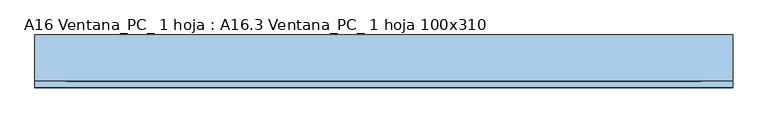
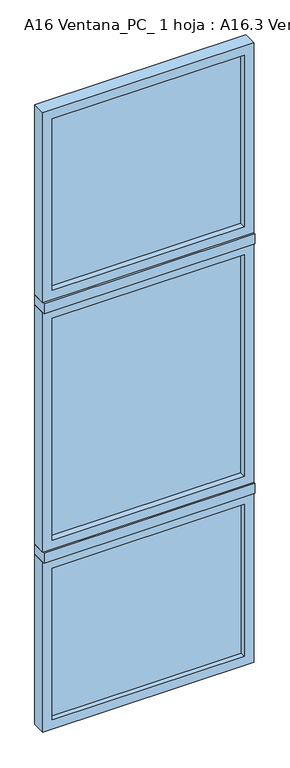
"""IFC4 building model written with IfcOpenShell, lengths in millimetres: window geometry, A16 Ventana_PC_ 1 hoja : A16.3 Ventana_PC_ 1 hoja 100x310."""

from ifc_helpers import new_model, si_unit, frame, origin, place, context, project, spatial, polyline, outline, extrude, source, transform, mapped, element, save


def a16_ventana_pc_1_hoja_a16_3_ventana_pc_1_hoja_100x310_32f91e1d(model_context):
    return source(origin(), model_context, "Body", "SweptSolid", [
        extrude(outline(polyline([(455.0, -37.5), (455.0, -53.5), (-455.0, -53.5), (-455.0, -37.5), (455.0, -37.5)])), frame((0.0, 0.0, 45.0), z_axis=(0.0, 0.0, 1.0), x_axis=(1.0, 0.0, 0.0)), (0.0, 0.0, 1.0), 760.0),
        extrude(outline(polyline([(455.0, -42.5), (455.0, -48.5), (-455.0, -48.5), (-455.0, -42.5), (455.0, -42.5)])), frame((0.0, 0.0, 2195.0), z_axis=(0.0, 0.0, 1.0), x_axis=(1.0, 0.0, 0.0)), (0.0, 0.0, 1.0), 860.0),
        extrude(outline(polyline([(455.0, -42.5), (455.0, -48.5), (-455.0, -48.5), (-455.0, -42.5), (455.0, -42.5)])), frame((0.0, 0.0, 945.0), z_axis=(0.0, 0.0, 1.0), x_axis=(1.0, 0.0, 0.0)), (0.0, 0.0, 1.0), 1110.0),
        extrude(outline(polyline([(850.0, -500.0), (0.0, -500.0), (0.0, 500.0), (850.0, 500.0), (850.0, -500.0)]), holes=[polyline([(805.0, -455.0), (805.0, 455.0), (45.0, 455.0), (45.0, -455.0), (805.0, -455.0)])]), frame((0.0, -78.5, 0.0), z_axis=(0.0, 1.0, 0.0), x_axis=(0.0, 0.0, 1.0)), (0.0, 0.0, 1.0), 66.0),
        extrude(outline(polyline([(3100.0, -500.0), (2150.0, -500.0), (2150.0, 500.0), (3100.0, 500.0), (3100.0, -500.0)]), holes=[polyline([(3055.0, -455.0), (3055.0, 455.0), (2195.0, 455.0), (2195.0, -455.0), (3055.0, -455.0)])]), frame((0.0, -78.5, 0.0), z_axis=(0.0, 1.0, 0.0), x_axis=(0.0, 0.0, 1.0)), (0.0, 0.0, 1.0), 66.0),
        extrude(outline(polyline([(2100.0, -500.0), (900.0, -500.0), (900.0, 500.0), (2100.0, 500.0), (2100.0, -500.0)]), holes=[polyline([(2055.0, -455.0), (2055.0, 455.0), (945.0, 455.0), (945.0, -455.0), (2055.0, -455.0)])]), frame((0.0, -78.5, 0.0), z_axis=(0.0, 1.0, 0.0), x_axis=(0.0, 0.0, 1.0)), (0.0, 0.0, 1.0), 66.0),
        extrude(outline(polyline([(500.0, -12.5), (500.0, -87.5), (-500.0, -87.5), (-500.0, -12.5), (500.0, -12.5)])), frame((0.0, 0.0, 2100.0), z_axis=(0.0, 0.0, 1.0), x_axis=(1.0, 0.0, 0.0)), (0.0, 0.0, 1.0), 50.0),
        extrude(outline(polyline([(500.0, -12.5), (500.0, -87.5), (-500.0, -87.5), (-500.0, -12.5), (500.0, -12.5)])), frame((0.0, 0.0, 850.0), z_axis=(0.0, 0.0, 1.0), x_axis=(1.0, 0.0, 0.0)), (0.0, 0.0, 1.0), 50.0),
    ])


if __name__ == "__main__":
    model = new_model("IFC4")
    model_context = context("Model", 3, world=origin())
    ifc_project = project(units=[si_unit("LENGTHUNIT", "METRE", prefix="MILLI")], contexts=[model_context])
    site = spatial("IfcSite", under=ifc_project)
    building = spatial("IfcBuilding", under=site)
    placement = place(None, origin())
    a16_ventana_pc_1_hoja_a16_3_ventana_pc_1_hoja_100x310_shape = a16_ventana_pc_1_hoja_a16_3_ventana_pc_1_hoja_100x310_32f91e1d(model_context)
    element("IfcWindow", 1, ObjectType="A16 Ventana_PC_ 1 hoja : A16.3 Ventana_PC_ 1 hoja 100x310", at=placement, inside=building, context=model_context, shape_type="MappedRepresentation", body=[
        mapped(a16_ventana_pc_1_hoja_a16_3_ventana_pc_1_hoja_100x310_shape, transform((0.0, 0.0, 0.0), x_axis=(1.0, 0.0, 0.0), y_axis=(0.0, 1.0, 0.0), z_axis=(0.0, 0.0, 1.0))),
    ])
    save(model, "model.ifc")
